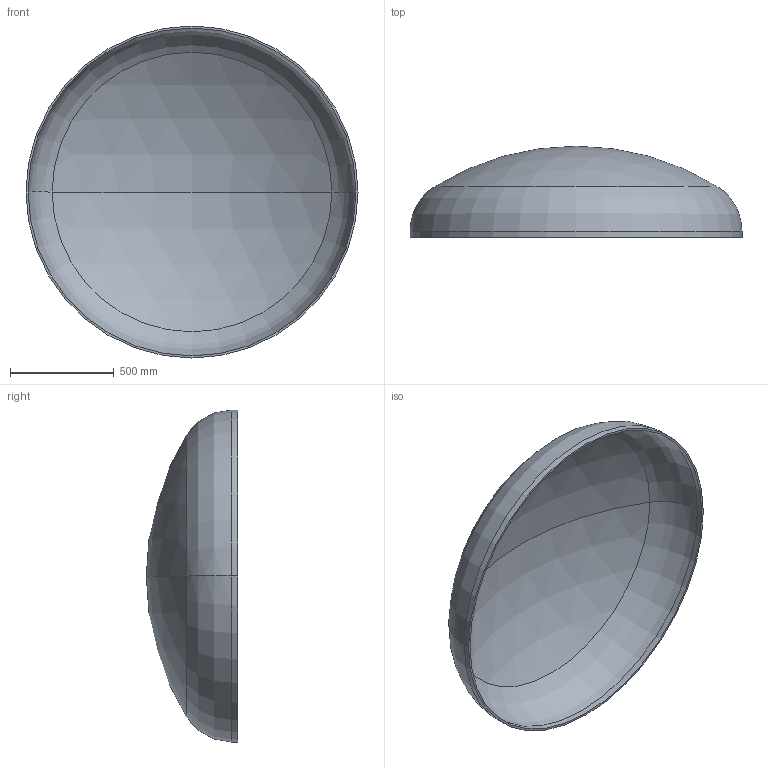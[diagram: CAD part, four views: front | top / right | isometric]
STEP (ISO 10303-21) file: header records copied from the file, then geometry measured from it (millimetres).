
FILE_DESCRIPTION (( 'STEP AP203' ), '1' );
FILE_NAME ('DIN 28013 Korbbogenform_-_Boden DIN 28013 - 1600 x 30 - I - s=10.step', '2016-07-01T11:04:28', ( '' ), ( '' ), 'SwSTEP 2.0', 'SolidWorks 2013', '' );
FILE_SCHEMA (( 'CONFIG_CONTROL_DESIGN' ));
Length unit declared in the file: millimetre
Products named in the file (1): DIN 28013 Korbbogenform_-_Boden DIN 28013 - 1600 x 30 - I - s=10
Bounding box: 1600 x 440.11 x 1600 mm (x, y, z)
Volume: 29086097.3 mm3; surface area: 5867378 mm2
Topology: 1 solids, 1 shells, 13 faces, 24 edges, 14 vertices
Faces by surface type: torus 4, cylinder 4, sphere 4, plane 1
Entity records: 407 total; most frequent: DIRECTION 72, CARTESIAN_POINT 52, ORIENTED_EDGE 48, AXIS2_PLACEMENT_3D 34, EDGE_CURVE 24, CIRCLE 20, VERTEX_POINT 14, EDGE_LOOP 14
